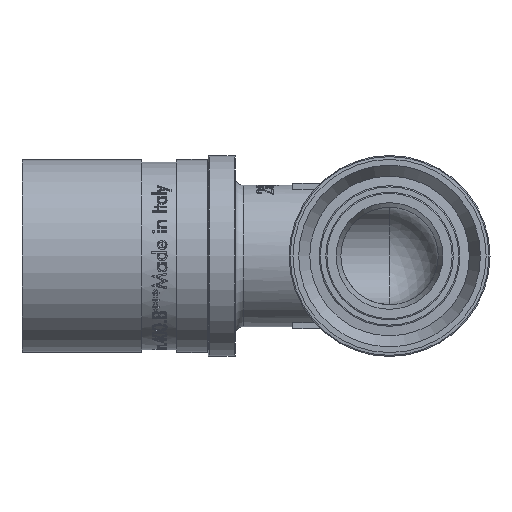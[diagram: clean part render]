
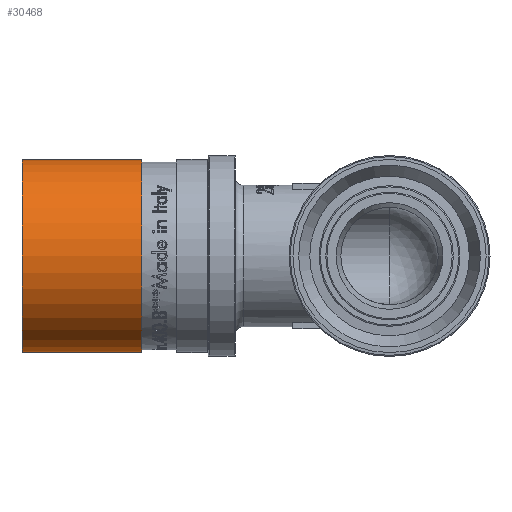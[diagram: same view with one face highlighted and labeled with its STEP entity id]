
A CAD part, left-side view. The second image highlights one B-rep face of the part: STEP entity #30468.
In plain terms, the highlighted cylindrical face has radius 12.5 mm (diameter 25 mm), a full revolution.
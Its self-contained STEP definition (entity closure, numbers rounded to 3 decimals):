
#162=CYLINDRICAL_SURFACE('',#31974,12.5);
#4408=LINE('',#56969,#6556);
#6556=VECTOR('',#35766,12.5);
#8919=FACE_OUTER_BOUND('',#10727,.T.);
#10727=EDGE_LOOP('',(#25455,#25456,#25457,#25458,#25459,#25460));
#11810=CIRCLE('',#31972,12.5);
#11811=CIRCLE('',#31973,12.5);
#11812=CIRCLE('',#31975,12.5);
#11813=CIRCLE('',#31976,12.5);
#14108=VERTEX_POINT('',#56960);
#14109=VERTEX_POINT('',#56961);
#14110=VERTEX_POINT('',#56965);
#14111=VERTEX_POINT('',#56966);
#18144=EDGE_CURVE('',#14108,#14109,#11810,.T.);
#18145=EDGE_CURVE('',#14109,#14108,#11811,.T.);
#18146=EDGE_CURVE('',#14110,#14111,#11812,.T.);
#18147=EDGE_CURVE('',#14111,#14110,#11813,.T.);
#18148=EDGE_CURVE('',#14111,#14109,#4408,.T.);
#25455=ORIENTED_EDGE('',*,*,#18146,.F.);
#25456=ORIENTED_EDGE('',*,*,#18147,.F.);
#25457=ORIENTED_EDGE('',*,*,#18148,.T.);
#25458=ORIENTED_EDGE('',*,*,#18145,.T.);
#25459=ORIENTED_EDGE('',*,*,#18144,.T.);
#25460=ORIENTED_EDGE('',*,*,#18148,.F.);
#30468=ADVANCED_FACE('',(#8919),#162,.T.);
#31972=AXIS2_PLACEMENT_3D('',#56962,#35756,#35757);
#31973=AXIS2_PLACEMENT_3D('',#56963,#35758,#35759);
#31974=AXIS2_PLACEMENT_3D('',#56964,#35760,#35761);
#31975=AXIS2_PLACEMENT_3D('',#56967,#35762,#35763);
#31976=AXIS2_PLACEMENT_3D('',#56968,#35764,#35765);
#35756=DIRECTION('center_axis',(0.,-1.,0.));
#35757=DIRECTION('ref_axis',(0.,0.,-1.));
#35758=DIRECTION('center_axis',(0.,-1.,0.));
#35759=DIRECTION('ref_axis',(0.,0.,-1.));
#35760=DIRECTION('center_axis',(0.,-1.,0.));
#35761=DIRECTION('ref_axis',(1.,0.,0.));
#35762=DIRECTION('center_axis',(0.,-1.,0.));
#35763=DIRECTION('ref_axis',(0.,0.,-1.));
#35764=DIRECTION('center_axis',(0.,-1.,0.));
#35765=DIRECTION('ref_axis',(0.,0.,-1.));
#35766=DIRECTION('',(0.,1.,0.));
#56960=CARTESIAN_POINT('',(12.5,47.561,0.));
#56961=CARTESIAN_POINT('',(-12.5,47.561,0.));
#56962=CARTESIAN_POINT('Origin',(0.,47.561,
0.));
#56963=CARTESIAN_POINT('Origin',(0.,47.561,
0.));
#56964=CARTESIAN_POINT('Origin',(0.,39.811,
0.));
#56965=CARTESIAN_POINT('',(12.5,32.061,0.));
#56966=CARTESIAN_POINT('',(-12.5,32.061,0.));
#56967=CARTESIAN_POINT('Origin',(0.,32.061,
0.));
#56968=CARTESIAN_POINT('Origin',(0.,32.061,
0.));
#56969=CARTESIAN_POINT('',(-12.5,39.811,0.));
